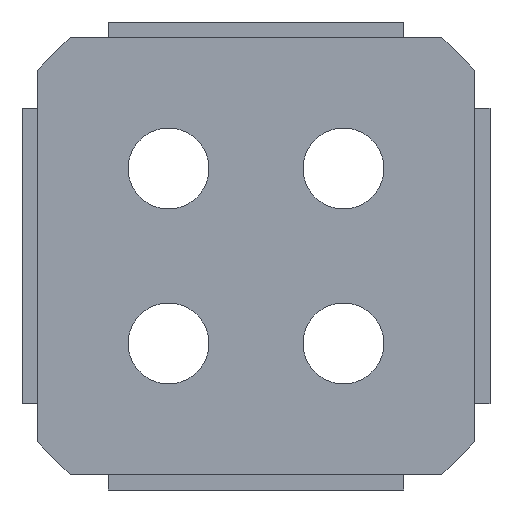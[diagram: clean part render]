
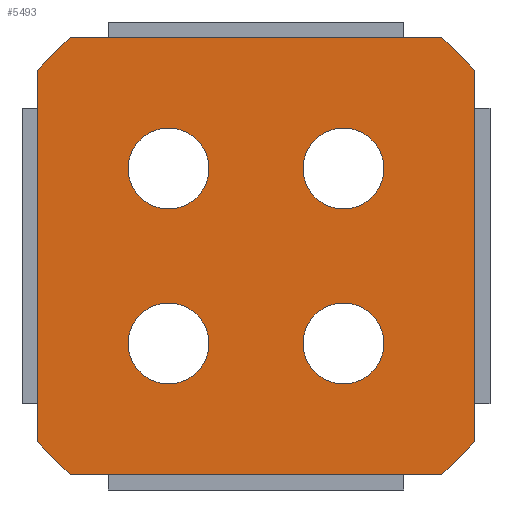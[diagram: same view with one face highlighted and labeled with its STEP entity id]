
A CAD part, front view. The second image highlights one B-rep face of the part: STEP entity #5493.
In plain terms, the highlighted planar face has unit normal (0, -1, 0).
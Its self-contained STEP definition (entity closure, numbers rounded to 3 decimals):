
#4 = LINE ( 'NONE', #4606, #5790 ) ;
#14 = CIRCLE ( 'NONE', #5962, 1.85 ) ;
#17 = CARTESIAN_POINT ( 'NONE',  ( 10., -1., -8.5 ) ) ;
#24 = CARTESIAN_POINT ( 'NONE',  ( -4., -1., 5.85 ) ) ;
#29 = VECTOR ( 'NONE', #1881, 1000. ) ;
#90 = VECTOR ( 'NONE', #1096, 1000. ) ;
#123 = CIRCLE ( 'NONE', #6039, 1.85 ) ;
#126 = CARTESIAN_POINT ( 'NONE',  ( 4., -1., -4. ) ) ;
#131 = CARTESIAN_POINT ( 'NONE',  ( 4., -1., -5.85 ) ) ;
#134 = CARTESIAN_POINT ( 'NONE',  ( -10., -1., 8.5 ) ) ;
#147 = EDGE_LOOP ( 'NONE', ( #5510, #5205 ) ) ;
#176 = EDGE_CURVE ( 'NONE', #4087, #884, #4666, .T. ) ;
#194 = DIRECTION ( 'NONE',  ( 0., 0., -1. ) ) ;
#234 = ORIENTED_EDGE ( 'NONE', *, *, #3694, .F. ) ;
#302 = DIRECTION ( 'NONE',  ( -0.707, 0., 0.707 ) ) ;
#457 = DIRECTION ( 'NONE',  ( 0.707, 0., -0.707 ) ) ;
#505 = CARTESIAN_POINT ( 'NONE',  ( -10., -1., 10. ) ) ;
#606 = DIRECTION ( 'NONE',  ( 0., 0., -1. ) ) ;
#622 = DIRECTION ( 'NONE',  ( 0., -1., 0. ) ) ;
#633 = LINE ( 'NONE', #4926, #3164 ) ;
#686 = DIRECTION ( 'NONE',  ( 0., -1., 0. ) ) ;
#820 = EDGE_CURVE ( 'NONE', #3059, #4503, #1471, .T. ) ;
#884 = VERTEX_POINT ( 'NONE', #1371 ) ;
#1059 = CARTESIAN_POINT ( 'NONE',  ( -10., -1., 10. ) ) ;
#1072 = ORIENTED_EDGE ( 'NONE', *, *, #1861, .T. ) ;
#1096 = DIRECTION ( 'NONE',  ( 0., 0., -1. ) ) ;
#1104 = AXIS2_PLACEMENT_3D ( 'NONE', #3550, #3048, #194 ) ;
#1133 = EDGE_CURVE ( 'NONE', #2137, #1940, #633, .T. ) ;
#1175 = DIRECTION ( 'NONE',  ( 0., 0., -1. ) ) ;
#1229 = CIRCLE ( 'NONE', #4755, 1.85 ) ;
#1345 = CARTESIAN_POINT ( 'NONE',  ( -4., -1., 2.15 ) ) ;
#1371 = CARTESIAN_POINT ( 'NONE',  ( 8.5, -1., 10. ) ) ;
#1471 = LINE ( 'NONE', #2364, #4949 ) ;
#1499 = CARTESIAN_POINT ( 'NONE',  ( -10., -1., 10. ) ) ;
#1500 = VERTEX_POINT ( 'NONE', #24 ) ;
#1524 = DIRECTION ( 'NONE',  ( 1., 0., 0. ) ) ;
#1531 = FACE_BOUND ( 'NONE', #147, .T. ) ;
#1560 = CARTESIAN_POINT ( 'NONE',  ( -4., -1., -4. ) ) ;
#1571 = ORIENTED_EDGE ( 'NONE', *, *, #1133, .F. ) ;
#1651 = EDGE_CURVE ( 'NONE', #1500, #3295, #4200, .T. ) ;
#1675 = CARTESIAN_POINT ( 'NONE',  ( -4., -1., 4. ) ) ;
#1699 = DIRECTION ( 'NONE',  ( 0., -1., 0. ) ) ;
#1741 = FACE_OUTER_BOUND ( 'NONE', #6047, .T. ) ;
#1759 = CARTESIAN_POINT ( 'NONE',  ( 4., -1., -2.15 ) ) ;
#1790 = CARTESIAN_POINT ( 'NONE',  ( -10., -1., -8.5 ) ) ;
#1861 = EDGE_CURVE ( 'NONE', #2137, #884, #4114, .T. ) ;
#1881 = DIRECTION ( 'NONE',  ( 0.707, 0., 0.707 ) ) ;
#1893 = FACE_BOUND ( 'NONE', #5742, .T. ) ;
#1925 = AXIS2_PLACEMENT_3D ( 'NONE', #126, #3470, #606 ) ;
#1940 = VERTEX_POINT ( 'NONE', #17 ) ;
#2002 = CARTESIAN_POINT ( 'NONE',  ( 8.5, -1., -10. ) ) ;
#2065 = AXIS2_PLACEMENT_3D ( 'NONE', #1675, #1699, #4103 ) ;
#2137 = VERTEX_POINT ( 'NONE', #2228 ) ;
#2157 = CARTESIAN_POINT ( 'NONE',  ( -4., -1., -5.85 ) ) ;
#2175 = ORIENTED_EDGE ( 'NONE', *, *, #820, .T. ) ;
#2219 = CARTESIAN_POINT ( 'NONE',  ( 8.5, -1., 10. ) ) ;
#2228 = CARTESIAN_POINT ( 'NONE',  ( 10., -1., 8.5 ) ) ;
#2364 = CARTESIAN_POINT ( 'NONE',  ( -10., -1., -10. ) ) ;
#2400 = LINE ( 'NONE', #1499, #90 ) ;
#2444 = DIRECTION ( 'NONE',  ( 0., 0., -1. ) ) ;
#2455 = EDGE_CURVE ( 'NONE', #3295, #1500, #123, .T. ) ;
#2464 = DIRECTION ( 'NONE',  ( 0., -1., 0. ) ) ;
#2486 = DIRECTION ( 'NONE',  ( 0., 0., -1. ) ) ;
#2536 = DIRECTION ( 'NONE',  ( 0., 0., -1. ) ) ;
#2552 = CARTESIAN_POINT ( 'NONE',  ( -4., -1., -4. ) ) ;
#2559 = CIRCLE ( 'NONE', #5463, 1.85 ) ;
#2672 = AXIS2_PLACEMENT_3D ( 'NONE', #2552, #2985, #5879 ) ;
#2888 = DIRECTION ( 'NONE',  ( 0., -1., 0. ) ) ;
#2904 = DIRECTION ( 'NONE',  ( 0., 0., -1. ) ) ;
#2985 = DIRECTION ( 'NONE',  ( 0., -1., 0. ) ) ;
#3010 = VECTOR ( 'NONE', #302, 1000. ) ;
#3014 = FACE_BOUND ( 'NONE', #3727, .T. ) ;
#3021 = LINE ( 'NONE', #5220, #29 ) ;
#3041 = CARTESIAN_POINT ( 'NONE',  ( 4., -1., 4. ) ) ;
#3048 = DIRECTION ( 'NONE',  ( 0., -1., 0. ) ) ;
#3059 = VERTEX_POINT ( 'NONE', #4864 ) ;
#3065 = ORIENTED_EDGE ( 'NONE', *, *, #3525, .F. ) ;
#3164 = VECTOR ( 'NONE', #2486, 1000. ) ;
#3254 = ORIENTED_EDGE ( 'NONE', *, *, #5917, .T. ) ;
#3295 = VERTEX_POINT ( 'NONE', #1345 ) ;
#3347 = EDGE_LOOP ( 'NONE', ( #4953, #4902 ) ) ;
#3352 = EDGE_CURVE ( 'NONE', #4503, #1940, #3021, .T. ) ;
#3355 = CARTESIAN_POINT ( 'NONE',  ( 4., -1., 2.15 ) ) ;
#3365 = PLANE ( 'NONE',  #6102 ) ;
#3398 = LINE ( 'NONE', #5726, #5971 ) ;
#3470 = DIRECTION ( 'NONE',  ( 0., -1., 0. ) ) ;
#3525 = EDGE_CURVE ( 'NONE', #6091, #4203, #2559, .T. ) ;
#3546 = VECTOR ( 'NONE', #1524, 1000. ) ;
#3550 = CARTESIAN_POINT ( 'NONE',  ( 4., -1., 4. ) ) ;
#3602 = CIRCLE ( 'NONE', #1925, 1.85 ) ;
#3607 = EDGE_CURVE ( 'NONE', #5899, #4672, #1229, .T. ) ;
#3694 = EDGE_CURVE ( 'NONE', #4203, #6091, #4422, .T. ) ;
#3725 = EDGE_CURVE ( 'NONE', #4672, #5899, #3602, .T. ) ;
#3727 = EDGE_LOOP ( 'NONE', ( #6078, #5807 ) ) ;
#3813 = CARTESIAN_POINT ( 'NONE',  ( -8.5, -1., 10. ) ) ;
#3841 = DIRECTION ( 'NONE',  ( 0., 0., 1. ) ) ;
#3920 = VERTEX_POINT ( 'NONE', #1790 ) ;
#3981 = CARTESIAN_POINT ( 'NONE',  ( 4., -1., -4. ) ) ;
#4051 = FACE_BOUND ( 'NONE', #3347, .T. ) ;
#4087 = VERTEX_POINT ( 'NONE', #3813 ) ;
#4103 = DIRECTION ( 'NONE',  ( 0., 0., -1. ) ) ;
#4114 = LINE ( 'NONE', #2219, #3010 ) ;
#4200 = CIRCLE ( 'NONE', #2065, 1.85 ) ;
#4203 = VERTEX_POINT ( 'NONE', #6092 ) ;
#4255 = DIRECTION ( 'NONE',  ( -0.707, 0., -0.707 ) ) ;
#4422 = CIRCLE ( 'NONE', #2672, 1.85 ) ;
#4492 = VERTEX_POINT ( 'NONE', #134 ) ;
#4503 = VERTEX_POINT ( 'NONE', #2002 ) ;
#4554 = EDGE_CURVE ( 'NONE', #5723, #4827, #14, .T. ) ;
#4606 = CARTESIAN_POINT ( 'NONE',  ( -8.5, -1., 10. ) ) ;
#4666 = LINE ( 'NONE', #1059, #3546 ) ;
#4672 = VERTEX_POINT ( 'NONE', #1759 ) ;
#4755 = AXIS2_PLACEMENT_3D ( 'NONE', #3981, #622, #2536 ) ;
#4827 = VERTEX_POINT ( 'NONE', #5140 ) ;
#4864 = CARTESIAN_POINT ( 'NONE',  ( -8.5, -1., -10. ) ) ;
#4902 = ORIENTED_EDGE ( 'NONE', *, *, #5083, .F. ) ;
#4926 = CARTESIAN_POINT ( 'NONE',  ( 10., -1., 10. ) ) ;
#4949 = VECTOR ( 'NONE', #5697, 1000. ) ;
#4953 = ORIENTED_EDGE ( 'NONE', *, *, #4554, .F. ) ;
#5083 = EDGE_CURVE ( 'NONE', #4827, #5723, #5384, .T. ) ;
#5140 = CARTESIAN_POINT ( 'NONE',  ( 4., -1., 5.85 ) ) ;
#5147 = ORIENTED_EDGE ( 'NONE', *, *, #5453, .T. ) ;
#5205 = ORIENTED_EDGE ( 'NONE', *, *, #1651, .F. ) ;
#5220 = CARTESIAN_POINT ( 'NONE',  ( 10., -1., -8.5 ) ) ;
#5279 = CARTESIAN_POINT ( 'NONE',  ( -4., -1., 4. ) ) ;
#5305 = EDGE_CURVE ( 'NONE', #4087, #4492, #4, .T. ) ;
#5384 = CIRCLE ( 'NONE', #1104, 1.85 ) ;
#5453 = EDGE_CURVE ( 'NONE', #3920, #3059, #3398, .T. ) ;
#5463 = AXIS2_PLACEMENT_3D ( 'NONE', #1560, #2888, #2904 ) ;
#5493 = ADVANCED_FACE ( 'NONE', ( #1893, #3014, #4051, #1531, #1741 ), #3365, .F. ) ;
#5510 = ORIENTED_EDGE ( 'NONE', *, *, #2455, .F. ) ;
#5565 = ORIENTED_EDGE ( 'NONE', *, *, #3352, .T. ) ;
#5697 = DIRECTION ( 'NONE',  ( 1., 0., 0. ) ) ;
#5723 = VERTEX_POINT ( 'NONE', #3355 ) ;
#5726 = CARTESIAN_POINT ( 'NONE',  ( -10., -1., -8.5 ) ) ;
#5742 = EDGE_LOOP ( 'NONE', ( #3065, #234 ) ) ;
#5790 = VECTOR ( 'NONE', #4255, 1000. ) ;
#5807 = ORIENTED_EDGE ( 'NONE', *, *, #3725, .F. ) ;
#5879 = DIRECTION ( 'NONE',  ( 0., 0., -1. ) ) ;
#5899 = VERTEX_POINT ( 'NONE', #131 ) ;
#5917 = EDGE_CURVE ( 'NONE', #4492, #3920, #2400, .T. ) ;
#5919 = ORIENTED_EDGE ( 'NONE', *, *, #5305, .T. ) ;
#5962 = AXIS2_PLACEMENT_3D ( 'NONE', #3041, #686, #1175 ) ;
#5971 = VECTOR ( 'NONE', #457, 1000. ) ;
#6039 = AXIS2_PLACEMENT_3D ( 'NONE', #5279, #2464, #2444 ) ;
#6047 = EDGE_LOOP ( 'NONE', ( #2175, #5565, #1571, #1072, #6163, #5919, #3254, #5147 ) ) ;
#6078 = ORIENTED_EDGE ( 'NONE', *, *, #3607, .F. ) ;
#6091 = VERTEX_POINT ( 'NONE', #2157 ) ;
#6092 = CARTESIAN_POINT ( 'NONE',  ( -4., -1., -2.15 ) ) ;
#6102 = AXIS2_PLACEMENT_3D ( 'NONE', #505, #6169, #3841 ) ;
#6163 = ORIENTED_EDGE ( 'NONE', *, *, #176, .F. ) ;
#6169 = DIRECTION ( 'NONE',  ( 0., 1., 0. ) ) ;
